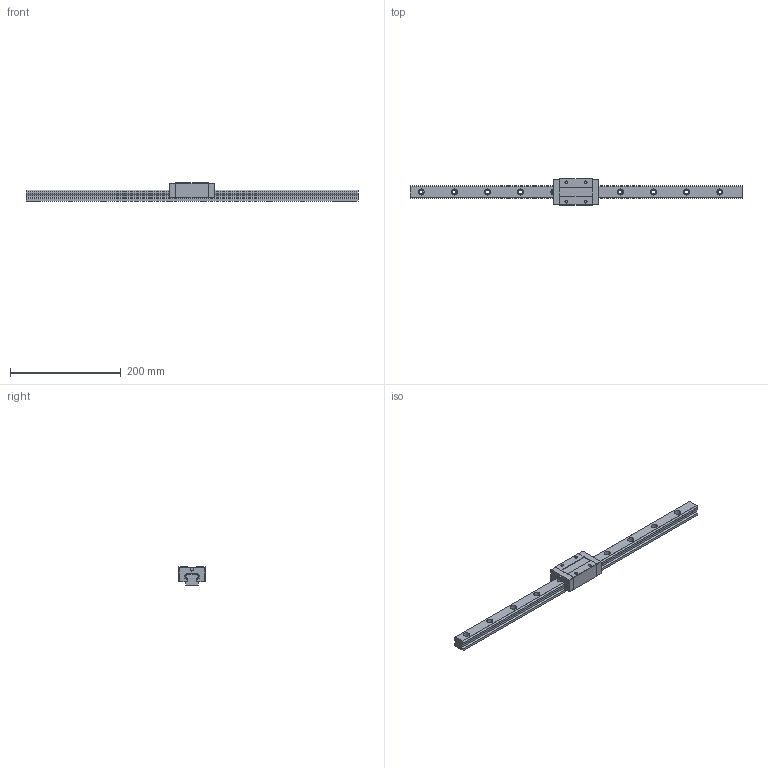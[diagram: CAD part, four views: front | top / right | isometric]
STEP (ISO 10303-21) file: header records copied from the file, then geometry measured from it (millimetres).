
FILE_DESCRIPTION (( 'STEP AP203' ), '1' );
FILE_NAME ('TRS25VN-XN.STEP', '2023-02-09T01:11:52', ( '' ), ( '' ), 'SwSTEP 2.0', 'SolidWorks 2019', '' );
FILE_SCHEMA (( 'CONFIG_CONTROL_DESIGN' ));
Length unit declared in the file: millimetre
Products named in the file (1): TRS25VN-XN
Bounding box: 600 x 48 x 33 mm (x, y, z)
Volume: 312064.2 mm3; surface area: 79743.6 mm2
Topology: 4 solids, 4 shells, 160 faces, 408 edges, 272 vertices
Faces by surface type: plane 88, cylinder 72
Entity records: 4987 total; most frequent: DIRECTION 874, CARTESIAN_POINT 841, ORIENTED_EDGE 816, EDGE_CURVE 408, AXIS2_PLACEMENT_3D 305, VERTEX_POINT 272, LINE 264, VECTOR 264
